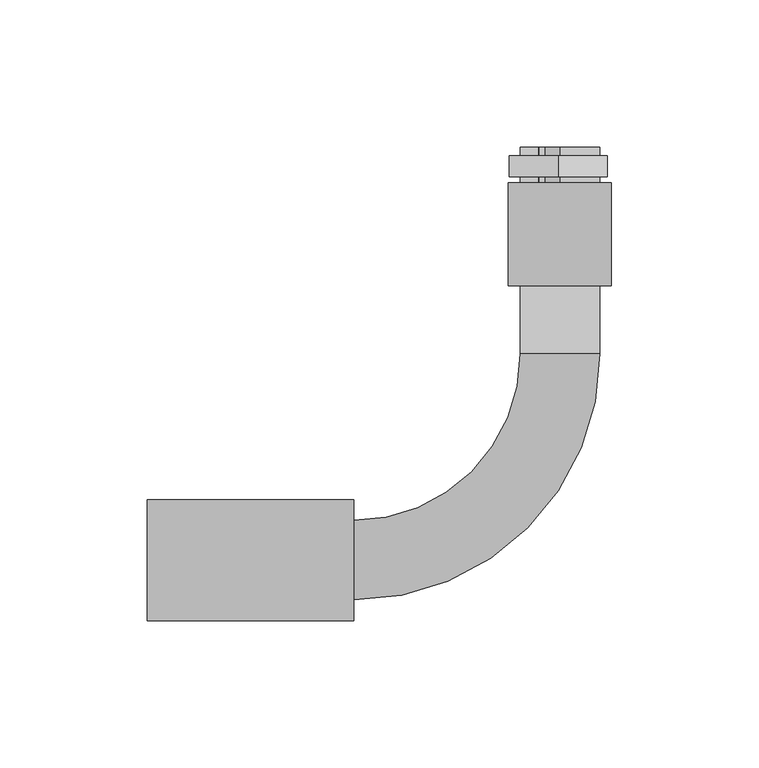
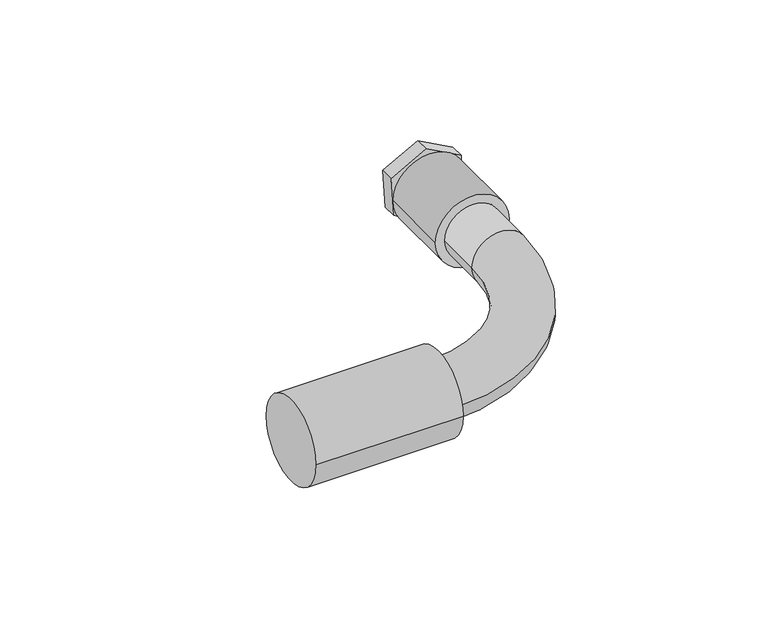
"""IFC4 building model written with IfcOpenShell, lengths in millimetres: cable carrier fitting geometry, Муфта_гибкая_труба-коробка_IP44 : Муфта гибкая труба-коробка D25мм."""

import ifcopenshell
import ifcopenshell.guid

model = None  # the IFC model being written
_history = None  # IfcOwnerHistory: only IFC2X3 demands one
_inside = {}  # id of a spatial element -> (the spatial element, [elements in it])
_under = {}  # id of a project, library or spatial element -> (it, [spatial elements below it])
_declared = {}  # id of a project -> (the project, [libraries it declares])
_typed = {}  # id of a type object -> (the type object, [elements of that type])
_made_of = {}  # id of a material, layer set ... -> (it, [elements and type objects made of it])


def new_model(schema):
    """Start an empty IFC model of exactly this schema.

    Asked for "IFC4X3", IfcOpenShell would pick the latest addendum, in which some entities
    have other attributes; the version numbers below select the first issue.
    IFC2X3 requires an IfcOwnerHistory on every rooted entity: one is made here for all.
    """
    global model, _history
    if schema == "IFC4X3":
        model = ifcopenshell.file(schema_version=(4, 3, 0, 0))
    else:
        model = ifcopenshell.file(schema=schema)
    _inside.clear()
    _under.clear()
    _declared.clear()
    _typed.clear()
    _made_of.clear()
    _history = None
    if model.schema == "IFC2X3":
        org = make("IfcOrganization", Name="unknown")
        user = make(
            "IfcPersonAndOrganization",
            ThePerson=make("IfcPerson", FamilyName="unknown"),
            TheOrganization=org,
        )
        app = make(
            "IfcApplication",
            ApplicationDeveloper=org,
            Version="unknown",
            ApplicationFullName="unknown",
            ApplicationIdentifier="unknown",
        )
        _history = make(
            "IfcOwnerHistory",
            OwningUser=user,
            OwningApplication=app,
            ChangeAction="ADDED",
            CreationDate=0,
        )
    return model


def make(cls, **values):
    """One entity of the class cls with the attributes given. An attribute that is None is left unset."""
    return model.create_entity(
        cls, **{name: value for name, value in values.items() if value is not None}
    )


def rooted(cls, **values):
    """An entity with a GlobalId (a new one), such as an element, a storey or a relation."""
    return make(cls, GlobalId=ifcopenshell.guid.new(), OwnerHistory=_history, **values)


def si_unit(unit_type, name, prefix=None):
    """IfcSIUnit, for example si_unit("LENGTHUNIT", "METRE", prefix="MILLI")."""
    return make("IfcSIUnit", UnitType=unit_type, Prefix=prefix, Name=name)


def assignment(units):
    """IfcUnitAssignment: the units of a project."""
    return None if units is None else make("IfcUnitAssignment", Units=units)


def point(xyz):
    """IfcCartesianPoint."""
    return None if xyz is None else make("IfcCartesianPoint", Coordinates=xyz)


def direction(xyz):
    """IfcDirection."""
    return None if xyz is None else make("IfcDirection", DirectionRatios=xyz)


def frame(location, z_axis=None, x_axis=None):
    """IfcAxis2Placement3D, a coordinate frame: its origin and axes. An axis left out is left unset."""
    return make(
        "IfcAxis2Placement3D",
        Location=point(location),
        Axis=direction(z_axis),
        RefDirection=direction(x_axis),
    )


def frame_2d(location, x_axis=None):
    """IfcAxis2Placement2D, a coordinate frame in the plane: its origin and x axis."""
    return make(
        "IfcAxis2Placement2D", Location=point(location), RefDirection=direction(x_axis)
    )


def origin():
    """The frame at (0, 0, 0) with its axes left unset."""
    return frame((0.0, 0.0, 0.0))


def origin_2d():
    """The frame at (0, 0) in the plane with its x axis left unset."""
    return frame_2d((0.0, 0.0))


def place(relative_to, where):
    """IfcLocalPlacement: puts the frame where relative to a parent placement (None: the world)."""
    return make(
        "IfcLocalPlacement", PlacementRelTo=relative_to, RelativePlacement=where
    )


def context(
    kind, dimensions, precision=None, world=None, true_north=None, identifier=None
):
    """IfcGeometricRepresentationContext, for example the 3D "Model" context."""
    return make(
        "IfcGeometricRepresentationContext",
        ContextIdentifier=identifier,
        ContextType=kind,
        CoordinateSpaceDimension=dimensions,
        Precision=precision,
        WorldCoordinateSystem=world,
        TrueNorth=true_north,
    )


def project(units=None, contexts=None):
    """IfcProject with its units and contexts."""
    return rooted(
        "IfcProject",
        Name="project",
        RepresentationContexts=contexts,
        UnitsInContext=assignment(units),
    )


def spatial(cls, under=None, at=None, **own):
    """A site, building, storey or space (cls), placed at a placement, below another one or the project."""
    s = rooted(cls, ObjectPlacement=at, **own)
    if under is not None:
        _under.setdefault(under.id(), (under, []))[1].append(s)
    return s


def polyline(points):
    """IfcPolyline through the points."""
    return make("IfcPolyline", Points=[point(p) for p in points])


def circle_curve(where, radius):
    """IfcCircle in the frame where."""
    return make("IfcCircle", Position=where, Radius=radius)


def ellipse_curve(where, semi_axis1, semi_axis2):
    """IfcEllipse in the frame where."""
    return make(
        "IfcEllipse", Position=where, SemiAxis1=semi_axis1, SemiAxis2=semi_axis2
    )


def trimmed(basis, trim1, trim2, sense, master):
    """IfcTrimmedCurve: the piece of a basis curve between two trims."""
    return make(
        "IfcTrimmedCurve",
        BasisCurve=basis,
        Trim1=trim1,
        Trim2=trim2,
        SenseAgreement=sense,
        MasterRepresentation=master,
    )


def segment(curve, same_sense, transition):
    """IfcCompositeCurveSegment."""
    return make(
        "IfcCompositeCurveSegment",
        Transition=transition,
        SameSense=same_sense,
        ParentCurve=curve,
    )


def composite_curve(segments, self_intersect=None):
    """IfcCompositeCurve: segments joined end to end."""
    return make("IfcCompositeCurve", Segments=segments, SelfIntersect=self_intersect)


def outline(outer, holes=None, kind="AREA"):
    """IfcArbitraryClosedProfileDef: a profile drawn as a closed curve; with holes, ...WithVoids."""
    if holes is None:
        return make("IfcArbitraryClosedProfileDef", ProfileType=kind, OuterCurve=outer)
    return make(
        "IfcArbitraryProfileDefWithVoids",
        ProfileType=kind,
        OuterCurve=outer,
        InnerCurves=holes,
    )


def extrude(swept, where, along, depth):
    """IfcExtrudedAreaSolid: the profile swept, set in the frame where, extruded along a direction by depth."""
    return make(
        "IfcExtrudedAreaSolid",
        SweptArea=swept,
        Position=where,
        ExtrudedDirection=direction(along),
        Depth=depth,
    )


def shape(context_of_items, identifier, shape_type, items):
    """IfcShapeRepresentation: the items that make up one representation, for example the "Body"."""
    return make(
        "IfcShapeRepresentation",
        ContextOfItems=context_of_items,
        RepresentationIdentifier=identifier,
        RepresentationType=shape_type,
        Items=items,
    )


def source(mapping_origin, context_of_items, identifier, shape_type, items):
    """IfcRepresentationMap: a shape defined once, which mapped items show again and again."""
    return make(
        "IfcRepresentationMap",
        MappingOrigin=mapping_origin,
        MappedRepresentation=shape(context_of_items, identifier, shape_type, items),
    )


def transform(
    local_origin,
    x_axis=None,
    y_axis=None,
    z_axis=None,
    scale=None,
    scale2=None,
    scale3=None,
    uniform=True,
):
    """IfcCartesianTransformationOperator3D, or its non-uniform kind. x_axis, y_axis, z_axis: its Axis1, 2, 3."""
    if uniform:
        return make(
            "IfcCartesianTransformationOperator3D",
            Axis1=direction(x_axis),
            Axis2=direction(y_axis),
            LocalOrigin=point(local_origin),
            Scale=scale,
            Axis3=direction(z_axis),
        )
    return make(
        "IfcCartesianTransformationOperator3DnonUniform",
        Axis1=direction(x_axis),
        Axis2=direction(y_axis),
        LocalOrigin=point(local_origin),
        Scale=scale,
        Axis3=direction(z_axis),
        Scale2=scale2,
        Scale3=scale3,
    )


def mapped(mapping_source, mapping_target):
    """IfcMappedItem: shows the shape of a source again, moved by a transform."""
    return make(
        "IfcMappedItem", MappingSource=mapping_source, MappingTarget=mapping_target
    )


def made_of(thing, what):
    """Note that an element or type object is made of a material, layer set ...; save() writes the relation."""
    if what is not None:
        _made_of.setdefault(what.id(), (what, []))[1].append(thing)
    return thing


def element(
    cls,
    number,
    at=None,
    inside=None,
    cuts=None,
    type_object=None,
    material=None,
    context=None,
    identifier="Body",
    shape_type=None,
    held_by="IfcProductDefinitionShape",
    body=None,
    shapes=None,
    **own,
):
    """One element of the class cls, such as IfcWall. Its Tag is "e" and its number.

    at: its placement. inside: the storey or other place that contains it. cuts: it is an
    opening in that element (IfcRelVoidsElement). A single representation is given by context,
    identifier, shape_type and body (its items); several are given by shapes. held_by: the class
    of the entity that holds the representations. save() writes the other relations.
    """
    e = rooted(cls, Tag="e%d" % number, ObjectPlacement=at, **own)
    if body is not None:
        shapes = [shape(context, identifier, shape_type, body)]
    if shapes is not None:
        e.Representation = make(held_by, Representations=shapes)
    if inside is not None:
        _inside.setdefault(inside.id(), (inside, []))[1].append(e)
    if cuts is not None:
        rooted(
            "IfcRelVoidsElement", RelatingBuildingElement=cuts, RelatedOpeningElement=e
        )
    if type_object is not None:
        _typed.setdefault(type_object.id(), (type_object, []))[1].append(e)
    return made_of(e, material)


def aggregate(whole, parts):
    """IfcRelAggregates: a whole, such as a stair, and the parts it consists of."""
    return rooted("IfcRelAggregates", RelatingObject=whole, RelatedObjects=parts)


def save(model, path):
    """Write the relations noted so far, then the file.

    IfcRelAggregates (storeys below a building ...), IfcRelContainedInSpatialStructure (elements
    in a storey), IfcRelDefinesByType, IfcRelAssociatesMaterial and IfcRelDeclares: one each for
    every whole, place, type object, material and project.
    """
    for whole, parts in _under.values():
        aggregate(whole, parts)
    for where, things in _inside.values():
        rooted(
            "IfcRelContainedInSpatialStructure",
            RelatedElements=things,
            RelatingStructure=where,
        )
    for kind, things in _typed.values():
        rooted("IfcRelDefinesByType", RelatedObjects=things, RelatingType=kind)
    for what, things in _made_of.values():
        rooted("IfcRelAssociatesMaterial", RelatedObjects=things, RelatingMaterial=what)
    for by, libraries in _declared.values():
        rooted("IfcRelDeclares", RelatingContext=by, RelatedDefinitions=libraries)
    model.write(path)


def plane_surface(at):
    """IfcPlane: the flat surface through the origin of the frame at, square to its z axis."""
    return make("IfcPlane", Position=at)


def cylinder_surface(at, radius):
    """IfcCylindricalSurface: all points at the distance radius from the z axis of the frame at."""
    return make("IfcCylindricalSurface", Position=at, Radius=radius)


def revolved_surface(curve, axis_point, axis_direction):
    """IfcSurfaceOfRevolution: the curve turned about the line through axis_point along axis_direction."""
    return make(
        "IfcSurfaceOfRevolution",
        SweptCurve=make("IfcArbitraryOpenProfileDef", ProfileType="CURVE", Curve=curve),
        AxisPosition=make("IfcAxis1Placement", Location=point(axis_point), Axis=direction(axis_direction)),
    )


def advanced_brep(points, edges, surfaces, faces):
    """IfcAdvancedBrep: a solid bounded by faces that lie on surfaces and meet in shared edges.

    An edge is (start, end): straight between two places in points (the first is 0);
    or (start, end, curve); or (start, end, curve, False) where it runs against its curve.
    A face is (place in surfaces, loops), or (place, loops, False) where it looks against
    its surface's normal. A loop lists edges by number (the first is 1), with a minus sign
    where the edge is run from its end to its start. The first loop is the outer one.
    """
    corners = [point(p) for p in points]
    vertices = [make("IfcVertexPoint", VertexGeometry=c) for c in corners]
    made = []
    for start, end, *more in edges:
        made.append(
            make(
                "IfcEdgeCurve",
                EdgeStart=vertices[start],
                EdgeEnd=vertices[end],
                EdgeGeometry=more[0] if more else make("IfcPolyline", Points=[corners[start], corners[end]]),
                SameSense=more[1] if len(more) > 1 else True,
            )
        )
    hull = []
    for where, loops, *sense in faces:
        bounds = []
        for j, loop in enumerate(loops):
            ring = [make("IfcOrientedEdge", EdgeElement=made[abs(k) - 1], Orientation=k > 0) for k in loop]
            bounds.append(
                make(
                    "IfcFaceOuterBound" if j == 0 else "IfcFaceBound",
                    Bound=make("IfcEdgeLoop", EdgeList=ring),
                    Orientation=True,
                )
            )
        hull.append(make("IfcAdvancedFace", Bounds=bounds, FaceSurface=surfaces[where], SameSense=sense[0] if sense else True))
    return make("IfcAdvancedBrep", Outer=make("IfcClosedShell", CfsFaces=hull))


def cable_carrier_fitting_1f9cecab(model_context):
    return source(origin(), model_context, "Body", "SolidModel", [
        extrude(outline(polyline([(-9.1903644, -16.0), (-19.4373152, 0.0), (-9.1903644, 16.0), (9.8096356, 16.0), (18.9133239, -0.6770159), (9.7631294, -17.3285606), (-9.1903644, -16.0)])), frame((0.0, 130.1018563, 0.0), z_axis=(0.0, 1.0, 0.0), x_axis=(0.0, 0.0, 1.0)), (0.0, 0.0, 1.0), 7.0),
        extrude(outline(composite_curve([segment(trimmed(circle_curve(frame_2d((0.0032191, -0.0900025)), 13.0), [point((0.0032191, 12.9099975))], [point((0.0032191, -13.0900025))], False, "CARTESIAN"), True, "CONTINUOUS"), segment(trimmed(circle_curve(frame_2d((0.0032191, -0.0900025)), 13.0), [point((0.0032191, -13.0900025))], [point((0.0032191, 12.9099975))], False, "CARTESIAN"), True, "CONTINUOUS")], self_intersect=False)), frame((0.0, 128.0, 0.0), z_axis=(0.0, 1.0, 0.0), x_axis=(0.0, 0.0, 1.0)), (0.0, 0.0, 1.0), 12.0),
        advanced_brep(
        [(17.4094864, 128.0, 0.0), (-17.5905136, 128.0, 0.0), (-12.5905136, 128.0, 0.0057257), (12.4094864, 128.0, 0.0057257), (17.4094864, 93.0, 0.0), (-17.5905136, 93.0, 0.0), (12.4094864, 96.5421201, 0.0057257), (-12.5905136, 96.5421201, 0.0057257)],
        [
            (0, 1, circle_curve(frame((-0.0905136, 128.0, 0.0), z_axis=(0.0, 1.0, 0.0), x_axis=(-1.0, 0.0, 0.0)), 17.5)),
            (1, 0, circle_curve(frame((-0.0905136, 128.0, 0.0), z_axis=(0.0, 1.0, 0.0), x_axis=(-1.0, 0.0, 0.0)), 17.5)),
            (2, 3, circle_curve(frame((-0.0905136, 128.0, 0.0057257), z_axis=(0.0, -1.0, 0.0), x_axis=(-1.0, 0.0, 0.0)), 12.5)),
            (3, 2, circle_curve(frame((-0.0905136, 128.0, 0.0057257), z_axis=(0.0, -1.0, 0.0), x_axis=(-1.0, 0.0, 0.0)), 12.5)),
            (4, 5, circle_curve(frame((-0.0905136, 93.0, 0.0), z_axis=(0.0, -1.0, 0.0), x_axis=(-1.0, 0.0, 0.0)), 17.5)),
            (5, 4, circle_curve(frame((-0.0905136, 93.0, 0.0), z_axis=(0.0, -1.0, 0.0), x_axis=(-1.0, 0.0, 0.0)), 17.5)),
            (0, 4),
            (5, 1),
            (6, 7, circle_curve(frame((-0.0905136, 96.5421201, 0.0057257), z_axis=(0.0, 1.0, 0.0), x_axis=(-1.0, 0.0, 0.0)), 12.5)),
            (7, 6, circle_curve(frame((-0.0905136, 96.5421201, 0.0057257), z_axis=(0.0, 1.0, 0.0), x_axis=(-1.0, 0.0, 0.0)), 12.5)),
            (6, 3),
            (2, 7),
        ],
        [
            plane_surface(frame((-17.5905136, 128.0, 0.0), z_axis=(0.0, 1.0, 0.0), x_axis=(0.0, 0.0, 1.0))),
            plane_surface(frame((-17.5905136, 93.0, 0.0), z_axis=(0.0, -1.0, 0.0), x_axis=(0.0, 0.0, -1.0))),
            cylinder_surface(frame((-0.0905136, 93.0, 0.0), z_axis=(0.0, 1.0, 0.0), x_axis=(-1.0, 0.0, 0.0)), 17.5),
            plane_surface(frame((-12.5905136, 96.5421201, 0.0057257), z_axis=(0.0, 1.0, 0.0), x_axis=(0.0, 0.0, -1.0))),
            revolved_surface(polyline([(-12.5905136, 128.0, 0.0057257), (-12.5905136, 96.5421201, 0.0057257)]), (-0.0905136, 96.5421201, 0.0057257), (0.0, 1.0, 0.0)),
        ],
        [
            (0, [[1, 2], [3, 4]]),
            (1, [[5, 6]]),
            (2, [[-1, 7, -6, 8]]),
            (2, [[-2, -8, -5, -7]]),
            (3, [[9, 10]]),
            (4, [[-9, 11, -3, 12]]),
            (4, [[-10, -12, -4, -11]]),
        ],
    ),
        extrude(outline(composite_curve([segment(trimmed(circle_curve(origin_2d(), 20.5), [point((-20.5, 0.0))], [point((20.5, 0.0))], False, "CARTESIAN"), True, "CONTINUOUS"), segment(trimmed(circle_curve(origin_2d(), 20.5), [point((20.5, 0.0))], [point((-20.5, 0.0))], False, "CARTESIAN"), True, "CONTINUOUS")], self_intersect=False)), frame((-140.0, 0.0, 0.0), z_axis=(1.0, 0.0, 0.0), x_axis=(0.0, 1.0, 0.0)), (0.0, 0.0, 1.0), 70.0),
        advanced_brep(
        [(-140.0, -13.5, 0.0), (-140.0, 13.5, 0.0), (-70.0, -13.5, 0.0), (-70.0, 13.5, 0.0), (-13.5, 70.0, 0.0), (13.5, 70.0, 0.0), (13.5, 140.0, 0.0), (-13.5, 140.0, 0.0)],
        [
            (0, 1, circle_curve(frame((-140.0, 0.0, 0.0), z_axis=(-1.0, 0.0, 0.0), x_axis=(0.0, 1.0, 0.0)), 13.5)),
            (1, 0, circle_curve(frame((-140.0, 0.0, 0.0), z_axis=(-1.0, 0.0, 0.0), x_axis=(0.0, 1.0, 0.0)), 13.5)),
            (0, 2),
            (2, 3, circle_curve(frame((-70.0, 0.0, 0.0), z_axis=(-1.0, 0.0, 0.0), x_axis=(0.0, 1.0, 0.0)), 13.5)),
            (3, 1),
            (3, 2, circle_curve(frame((-70.0, 0.0, 0.0), z_axis=(-1.0, 0.0, 0.0), x_axis=(0.0, 1.0, 0.0)), 13.5)),
            (4, 3, circle_curve(frame((-70.0, 70.0, 0.0), z_axis=(0.0, 0.0, -1.0), x_axis=(0.0, -1.0, 0.0)), 56.5)),
            (2, 5, circle_curve(frame((-70.0, 70.0, 0.0), z_axis=(0.0, 0.0, 1.0), x_axis=(0.0, -1.0, 0.0)), 83.5)),
            (5, 4, circle_curve(frame((0.0, 70.0, 0.0), z_axis=(0.0, -1.0, 0.0), x_axis=(-1.0, 0.0, 0.0)), 13.5)),
            (4, 5, circle_curve(frame((0.0, 70.0, 0.0), z_axis=(0.0, -1.0, 0.0), x_axis=(-1.0, 0.0, 0.0)), 13.5)),
            (6, 7, circle_curve(frame((0.0, 140.0, 0.0), z_axis=(0.0, 1.0, 0.0), x_axis=(-1.0, 0.0, 0.0)), 13.5)),
            (7, 6, circle_curve(frame((0.0, 140.0, 0.0), z_axis=(0.0, 1.0, 0.0), x_axis=(-1.0, 0.0, 0.0)), 13.5)),
            (5, 6),
            (7, 4),
        ],
        [
            plane_surface(frame((-140.0, 0.0, 0.0), z_axis=(-1.0, 0.0, 0.0), x_axis=(0.0, 0.0, 1.0))),
            cylinder_surface(frame((-140.0, 0.0, 0.0), z_axis=(-1.0, 0.0, 0.0), x_axis=(0.0, 1.0, 0.0)), 13.5),
            revolved_surface(trimmed(ellipse_curve(frame((-70.0, 0.0, 0.0), z_axis=(-1.0, 0.0, 0.0), x_axis=(0.0, 1.0, 0.0)), 13.5, 13.5), [point((-70.0, -13.5, 0.0))], [point((-70.0, 13.5, 0.0))], True, "CARTESIAN"), (-70.0, 70.0, 0.0), (0.0, 0.0, 1.0)),
            revolved_surface(trimmed(ellipse_curve(frame((-70.0, 0.0, 0.0), z_axis=(-1.0, 0.0, 0.0), x_axis=(0.0, 1.0, 0.0)), 13.5, 13.5), [point((-70.0, 13.5, 0.0))], [point((-70.0, -13.5, 0.0))], True, "CARTESIAN"), (-70.0, 70.0, 0.0), (0.0, 0.0, 1.0)),
            plane_surface(frame((0.0, 140.0, 0.0), z_axis=(0.0, 1.0, 0.0), x_axis=(0.0, 0.0, 1.0))),
            cylinder_surface(frame((0.0, 70.0, 0.0), z_axis=(0.0, -1.0, 0.0), x_axis=(-1.0, 0.0, 0.0)), 13.5),
        ],
        [
            (0, [[1, 2]]),
            (1, [[-1, 3, 4, 5]]),
            (1, [[-2, -5, 6, -3]]),
            (2, [[7, -4, 8, 9]]),
            (3, [[-8, -6, -7, 10]]),
            (4, [[11, 12]]),
            (5, [[-9, 13, -12, 14]]),
            (5, [[-10, -14, -11, -13]]),
        ],
    ),
    ])


if __name__ == "__main__":
    model = new_model("IFC4")
    model_context = context("Model", 3, world=origin())
    ifc_project = project(units=[si_unit("LENGTHUNIT", "METRE", prefix="MILLI")], contexts=[model_context])
    site = spatial("IfcSite", under=ifc_project)
    building = spatial("IfcBuilding", under=site)
    placement = place(None, origin())
    cable_carrier_fitting_shape = cable_carrier_fitting_1f9cecab(model_context)
    element("IfcCableCarrierFitting", 1, ObjectType="Муфта_гибкая_труба-коробка_IP44 : Муфта гибкая труба-коробка D25мм", at=placement, inside=building, context=model_context, shape_type="MappedRepresentation", body=[
        mapped(cable_carrier_fitting_shape, transform((0.0, 0.0, 0.0), x_axis=(1.0, 0.0, 0.0), y_axis=(0.0, 1.0, 0.0), z_axis=(0.0, 0.0, 1.0))),
    ])
    save(model, "model.ifc")
